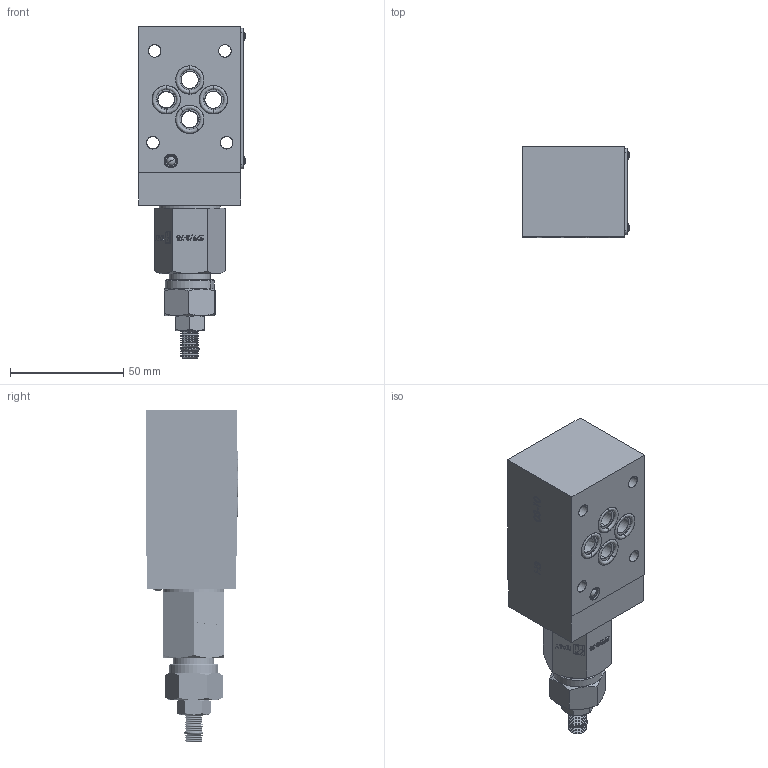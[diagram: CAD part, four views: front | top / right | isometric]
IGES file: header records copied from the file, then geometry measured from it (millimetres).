
Start section: SolidWorks IGES file using analytic representation for surfaces
Global section: file name: C:\Users\user\Desktop\FT379-3-B-03.IGS; native system: SolidWorks 2014; preprocessor: SolidWorks 2014; author: user; date: 140618.142208; units: millimetre
Bounding box: 46.96 x 40.38 x 146.41 mm (x, y, z)
Surface area: 53478.3 mm2 (no closed solid volume)
Topology: 0 solids, 0 shells, 2331 faces, 26137 edges, 26117 vertices
Faces by surface type: bspline 1656, revolution 675
